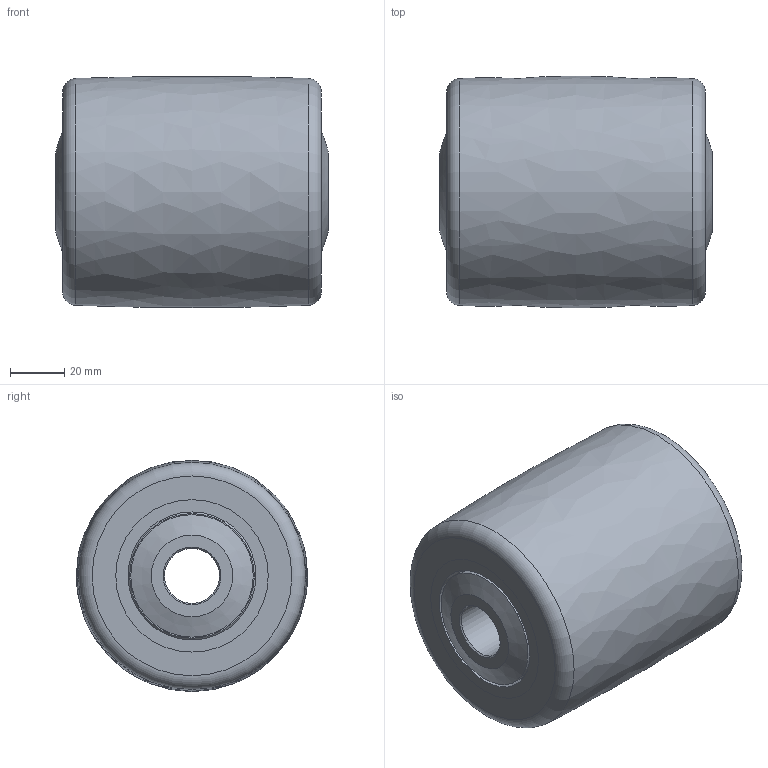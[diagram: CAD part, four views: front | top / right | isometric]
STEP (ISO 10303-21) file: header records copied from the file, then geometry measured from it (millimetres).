
FILE_DESCRIPTION(/* description */ (''),/* implementation_level */ '2;1');
FILE_NAME(/* name */ 'F:/기술영업부/홈페이지관련/2019/롤러도면/HURD-85-10020.step',/* time_stamp */ '2019-07-31T11:27:58+09:00',/* author */ (''),/* organization */ (''),/* preprocessor_version */ 'ST-DEVELOPER v18',/* originating_system */ 'Autodesk Translation Framework v8.2.0.1029',/* authorisation */ '');
FILE_SCHEMA (('AUTOMOTIVE_DESIGN { 1 0 10303 214 3 1 1 }'));
Length unit declared in the file: millimetre
Products named in the file (6): HURD-85-10020; Component1; Component2; Ball Bearing 6005; Roller_Cover D17 v2; Roller_Cover D17 v2 (1)
Assembly tree (6 placements, depth 2):
  HURD-85-10020
    Component1
    Component2
    Ball Bearing 6005  x2
    Roller_Cover D17 v2
    Roller_Cover D17 v2 (1)
Bounding box: 100 x 85 x 84.91 mm (x, y, z)
Volume: 430864.1 mm3; surface area: 113269.1 mm2
Topology: 40 solids, 40 shells, 124 faces, 332 edges, 238 vertices
Faces by surface type: cylinder 37, plane 30, sphere 28, cone 18, torus 10, bspline 1
Full cylindrical faces by diameter (mm): 20.2 x2, 24.8 x2, 25 x2, 30 x2, 32.923 x8, 39.077 x8, 41 x1, 45 x2, 47 x4, 53 x2, 56 x4
Entity records: 2913 total; most frequent: DIRECTION 551, CARTESIAN_POINT 486, ORIENTED_EDGE 398, AXIS2_PLACEMENT_3D 255, EDGE_CURVE 199, VERTEX_POINT 163, CIRCLE 158, EDGE_LOOP 108
